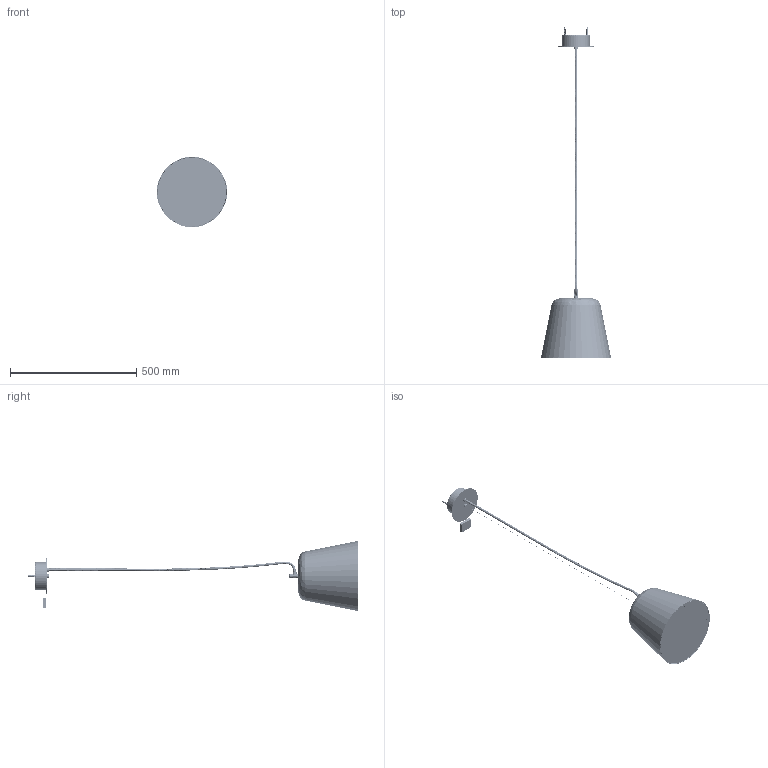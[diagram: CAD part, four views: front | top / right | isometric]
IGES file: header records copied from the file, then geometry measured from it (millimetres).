
Start section: SolidWorks IGES file using analytic representation for surfaces
Global section: file name: C:\Users\berta.gumma\OneDrive - santa &cole\Desktop\vaso ul 3d.IGS; native system: SolidWorks 2021; preprocessor: SolidWorks 2021; author: berta.gumma; date: 231215.120510; units: millimetre
Bounding box: 278.08 x 1313.38 x 278.08 mm (x, y, z)
Surface area: 1122157.1 mm2 (no closed solid volume)
Topology: 0 solids, 0 shells, 6441 faces, 66938 edges, 66872 vertices
Faces by surface type: bspline 3691, revolution 2750
